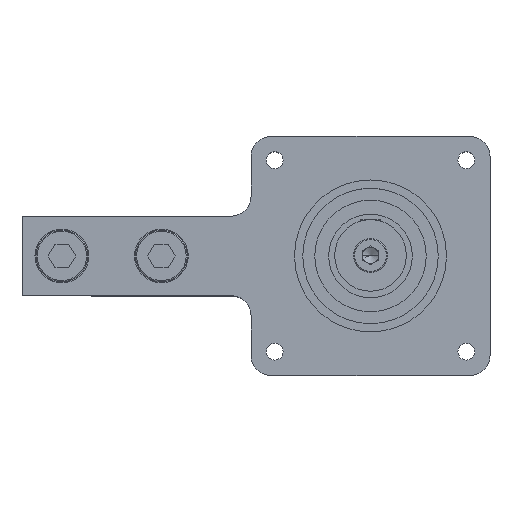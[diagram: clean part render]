
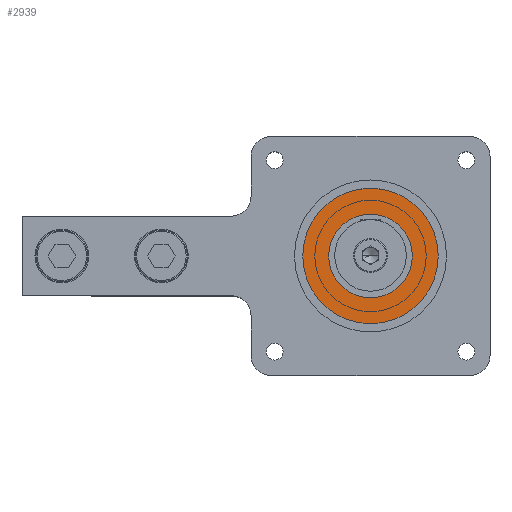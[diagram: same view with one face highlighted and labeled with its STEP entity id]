
A CAD part, top view. The second image highlights one B-rep face of the part: STEP entity #2939.
In plain terms, the highlighted planar face has unit normal (0, 0, 1).
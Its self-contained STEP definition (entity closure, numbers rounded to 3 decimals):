
#652 = ORIENTED_EDGE ( 'NONE', *, *, #2442, .T. ) ;
#717 = ORIENTED_EDGE ( 'NONE', *, *, #11833, .F. ) ;
#1362 = CARTESIAN_POINT ( 'NONE',  ( 0., 0., 5.5 ) ) ;
#1637 = CIRCLE ( 'NONE', #4831, 17. ) ;
#2427 = CARTESIAN_POINT ( 'NONE',  ( 0., 0., 5.5 ) ) ;
#2442 = EDGE_CURVE ( 'NONE', #11621, #3432, #1637, .T. ) ;
#2531 = DIRECTION ( 'NONE',  ( 0., 0., 1. ) ) ;
#2589 = ORIENTED_EDGE ( 'NONE', *, *, #12313, .F. ) ;
#2869 = DIRECTION ( 'NONE',  ( 0., 0., 1. ) ) ;
#2939 = ADVANCED_FACE ( 'NONE', ( #11788, #10819 ), #6870, .F. ) ;
#3085 = ORIENTED_EDGE ( 'NONE', *, *, #9440, .T. ) ;
#3335 = CIRCLE ( 'NONE', #10693, 10.5 ) ;
#3432 = VERTEX_POINT ( 'NONE', #10427 ) ;
#4082 = DIRECTION ( 'NONE',  ( 0., 0., -1. ) ) ;
#4831 = AXIS2_PLACEMENT_3D ( 'NONE', #5112, #2869, #10240 ) ;
#4834 = AXIS2_PLACEMENT_3D ( 'NONE', #2427, #7654, #5503 ) ;
#5112 = CARTESIAN_POINT ( 'NONE',  ( 0., 0., 5.5 ) ) ;
#5213 = EDGE_LOOP ( 'NONE', ( #2589, #717 ) ) ;
#5503 = DIRECTION ( 'NONE',  ( 1., 0., 0. ) ) ;
#5790 = VERTEX_POINT ( 'NONE', #11921 ) ;
#6611 = CARTESIAN_POINT ( 'NONE',  ( -10.5, 0., 5.5 ) ) ;
#6831 = CIRCLE ( 'NONE', #11572, 17. ) ;
#6870 = PLANE ( 'NONE',  #12946 ) ;
#6926 = DIRECTION ( 'NONE',  ( 0., 0., 1. ) ) ;
#7654 = DIRECTION ( 'NONE',  ( 0., 0., 1. ) ) ;
#8326 = EDGE_LOOP ( 'NONE', ( #3085, #652 ) ) ;
#9440 = EDGE_CURVE ( 'NONE', #3432, #11621, #6831, .T. ) ;
#10050 = CARTESIAN_POINT ( 'NONE',  ( 0., 0., 5.5 ) ) ;
#10240 = DIRECTION ( 'NONE',  ( 1., 0., 0. ) ) ;
#10427 = CARTESIAN_POINT ( 'NONE',  ( 17., 0., 5.5 ) ) ;
#10693 = AXIS2_PLACEMENT_3D ( 'NONE', #1362, #2531, #12771 ) ;
#10819 = FACE_OUTER_BOUND ( 'NONE', #8326, .T. ) ;
#11112 = DIRECTION ( 'NONE',  ( 1., 0., 0. ) ) ;
#11219 = CIRCLE ( 'NONE', #4834, 10.5 ) ;
#11572 = AXIS2_PLACEMENT_3D ( 'NONE', #10050, #6926, #11112 ) ;
#11621 = VERTEX_POINT ( 'NONE', #13453 ) ;
#11788 = FACE_BOUND ( 'NONE', #5213, .T. ) ;
#11833 = EDGE_CURVE ( 'NONE', #13434, #5790, #3335, .T. ) ;
#11921 = CARTESIAN_POINT ( 'NONE',  ( 10.5, 0., 5.5 ) ) ;
#12121 = CARTESIAN_POINT ( 'NONE',  ( -17., 0., 5.5 ) ) ;
#12313 = EDGE_CURVE ( 'NONE', #5790, #13434, #11219, .T. ) ;
#12344 = DIRECTION ( 'NONE',  ( -1., 0., 0. ) ) ;
#12771 = DIRECTION ( 'NONE',  ( 1., 0., 0. ) ) ;
#12946 = AXIS2_PLACEMENT_3D ( 'NONE', #12121, #4082, #12344 ) ;
#13434 = VERTEX_POINT ( 'NONE', #6611 ) ;
#13453 = CARTESIAN_POINT ( 'NONE',  ( -17., 0., 5.5 ) ) ;
